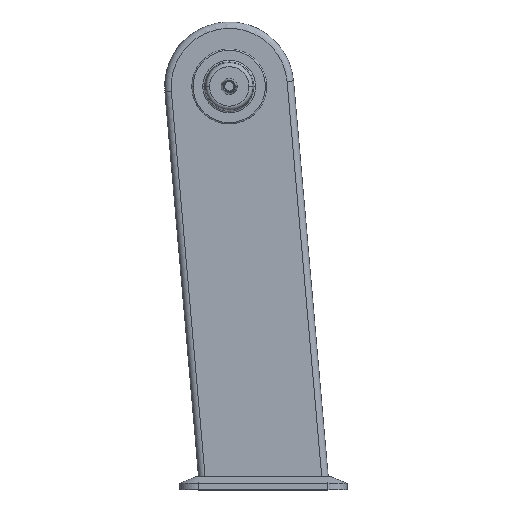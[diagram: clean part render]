
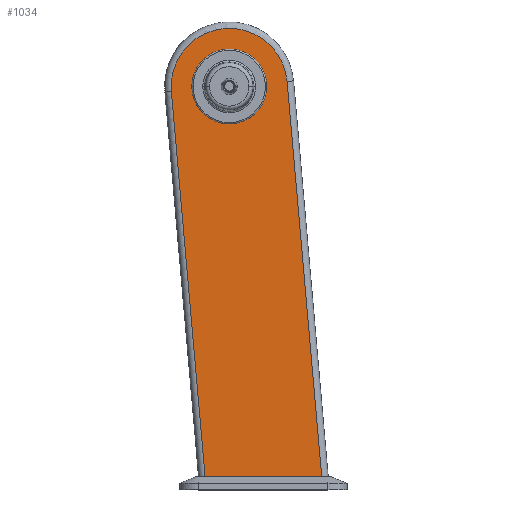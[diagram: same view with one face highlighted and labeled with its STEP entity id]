
A CAD part, top view. The second image highlights one B-rep face of the part: STEP entity #1034.
In plain terms, the highlighted planar face has unit normal (0, 0, 1).
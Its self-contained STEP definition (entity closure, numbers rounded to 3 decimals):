
#30 = DIRECTION ( 'NONE',  ( 0., 0., 1. ) ) ;
#35 = VECTOR ( 'NONE', #860, 1000. ) ;
#73 = FACE_BOUND ( 'NONE', #1005, .T. ) ;
#93 = CARTESIAN_POINT ( 'NONE',  ( 89.658, 7.844, 31.25 ) ) ;
#116 = CARTESIAN_POINT ( 'NONE',  ( 89.658, 7.844, 31.25 ) ) ;
#117 = CARTESIAN_POINT ( 'NONE',  ( 58., 0., 31.25 ) ) ;
#123 = CARTESIAN_POINT ( 'NONE',  ( -89.658, -7.844, 31.25 ) ) ;
#138 = EDGE_LOOP ( 'NONE', ( #325, #280, #1844, #1437 ) ) ;
#162 = VERTEX_POINT ( 'NONE', #93 ) ;
#174 = VECTOR ( 'NONE', #1015, 1000. ) ;
#205 = LINE ( 'NONE', #116, #2154 ) ;
#279 = VERTEX_POINT ( 'NONE', #1546 ) ;
#280 = ORIENTED_EDGE ( 'NONE', *, *, #2213, .T. ) ;
#325 = ORIENTED_EDGE ( 'NONE', *, *, #1098, .T. ) ;
#370 = AXIS2_PLACEMENT_3D ( 'NONE', #1818, #664, #2004 ) ;
#406 = ORIENTED_EDGE ( 'NONE', *, *, #2500, .F. ) ;
#462 = AXIS2_PLACEMENT_3D ( 'NONE', #1256, #30, #1450 ) ;
#553 = DIRECTION ( 'NONE',  ( 0., 0., 1. ) ) ;
#664 = DIRECTION ( 'NONE',  ( 0., 0., 1. ) ) ;
#714 = EDGE_CURVE ( 'NONE', #2021, #1667, #1081, .T. ) ;
#860 = DIRECTION ( 'NONE',  ( 1., 0., 0. ) ) ;
#862 = CARTESIAN_POINT ( 'NONE',  ( 143.274, -605., 31.25 ) ) ;
#904 = EDGE_CURVE ( 'NONE', #1463, #162, #205, .T. ) ;
#908 = CIRCLE ( 'NONE', #2220, 58. ) ;
#933 = VERTEX_POINT ( 'NONE', #123 ) ;
#1005 = EDGE_LOOP ( 'NONE', ( #406, #2418 ) ) ;
#1015 = DIRECTION ( 'NONE',  ( 0.087, -0.996, 0. ) ) ;
#1020 = CARTESIAN_POINT ( 'NONE',  ( -58., 0., 31.25 ) ) ;
#1034 = ADVANCED_FACE ( 'NONE', ( #1054, #73 ), #1357, .T. ) ;
#1054 = FACE_OUTER_BOUND ( 'NONE', #138, .T. ) ;
#1076 = LINE ( 'NONE', #2193, #35 ) ;
#1081 = CIRCLE ( 'NONE', #370, 58. ) ;
#1098 = EDGE_CURVE ( 'NONE', #933, #279, #1379, .T. ) ;
#1157 = DIRECTION ( 'NONE',  ( 0., 0., 1. ) ) ;
#1256 = CARTESIAN_POINT ( 'NONE',  ( 0., 0., 31.25 ) ) ;
#1357 = PLANE ( 'NONE',  #1532 ) ;
#1379 = LINE ( 'NONE', #1584, #174 ) ;
#1437 = ORIENTED_EDGE ( 'NONE', *, *, #2169, .T. ) ;
#1450 = DIRECTION ( 'NONE',  ( 1., 0., 0. ) ) ;
#1463 = VERTEX_POINT ( 'NONE', #862 ) ;
#1522 = DIRECTION ( 'NONE',  ( -0.087, 0.996, 0. ) ) ;
#1532 = AXIS2_PLACEMENT_3D ( 'NONE', #1729, #553, #1907 ) ;
#1546 = CARTESIAN_POINT ( 'NONE',  ( -37.413, -605., 31.25 ) ) ;
#1584 = CARTESIAN_POINT ( 'NONE',  ( -35.74, -624.128, 31.25 ) ) ;
#1667 = VERTEX_POINT ( 'NONE', #117 ) ;
#1729 = CARTESIAN_POINT ( 'NONE',  ( 0., 0., 31.25 ) ) ;
#1749 = CIRCLE ( 'NONE', #462, 90. ) ;
#1818 = CARTESIAN_POINT ( 'NONE',  ( 0., 0., 31.25 ) ) ;
#1844 = ORIENTED_EDGE ( 'NONE', *, *, #904, .T. ) ;
#1907 = DIRECTION ( 'NONE',  ( 1., 0., 0. ) ) ;
#2004 = DIRECTION ( 'NONE',  ( 1., 0., 0. ) ) ;
#2021 = VERTEX_POINT ( 'NONE', #1020 ) ;
#2154 = VECTOR ( 'NONE', #1522, 1000. ) ;
#2169 = EDGE_CURVE ( 'NONE', #162, #933, #1749, .T. ) ;
#2193 = CARTESIAN_POINT ( 'NONE',  ( 0., -605., 31.25 ) ) ;
#2213 = EDGE_CURVE ( 'NONE', #279, #1463, #1076, .T. ) ;
#2220 = AXIS2_PLACEMENT_3D ( 'NONE', #2262, #1157, #2448 ) ;
#2262 = CARTESIAN_POINT ( 'NONE',  ( 0., 0., 31.25 ) ) ;
#2418 = ORIENTED_EDGE ( 'NONE', *, *, #714, .F. ) ;
#2448 = DIRECTION ( 'NONE',  ( 1., 0., 0. ) ) ;
#2500 = EDGE_CURVE ( 'NONE', #1667, #2021, #908, .T. ) ;
